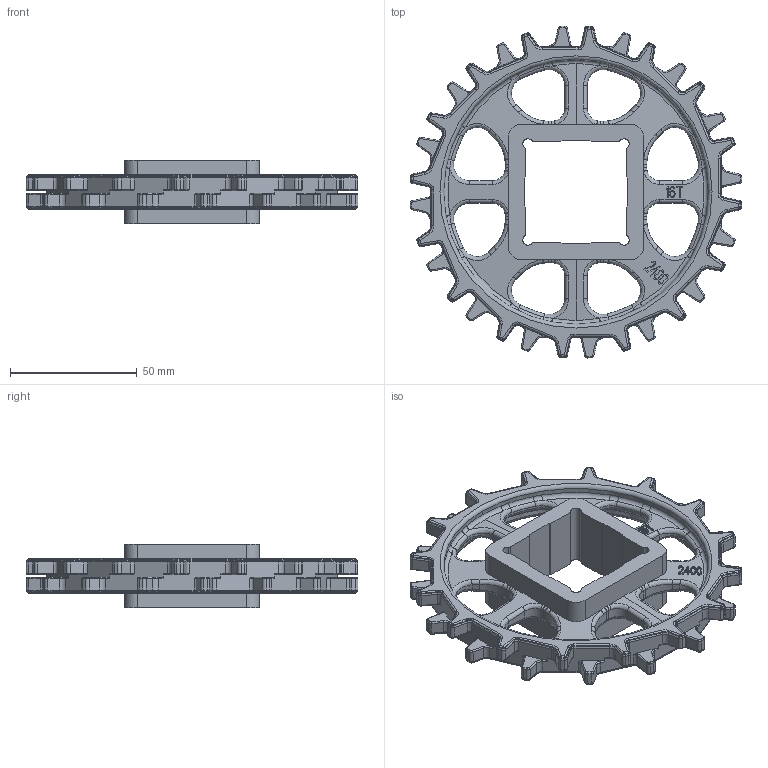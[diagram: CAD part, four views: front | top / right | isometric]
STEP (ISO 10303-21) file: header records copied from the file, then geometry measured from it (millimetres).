
FILE_DESCRIPTION(/* description */ (''),/* implementation_level */ '2;1');
FILE_NAME(/* name */ 'HS-2400B-16T-2R-S40.stp',/* time_stamp */ '2025-06-10T10:23:05+08:00',/* author */ (''),/* organization */ (''),/* preprocessor_version */ 'ST-DEVELOPER v15',/* originating_system */ 'SIEMENS PLM Software NX 8.5',/* authorisation */ '');
FILE_SCHEMA (('AP203_CONFIGURATION_CONTROLLED_3D_DESIGN_OF_MECHANICAL_PARTS_AND_ASSEMBLIES_MIM_LF { 1 0 10303 403 2 1 2}'));
Length unit declared in the file: millimetre
Products named in the file (1): Admi298016A0kctd
Bounding box: 131.07 x 131.07 x 24.89 mm (x, y, z)
Volume: 78064.1 mm3; surface area: 33895.3 mm2
Topology: 1 solids, 1 shells, 1878 faces, 4421 edges, 2478 vertices
Faces by surface type: cylinder 512, plane 469, torus 402, bspline 304, cone 191
Entity records: 73913 total; most frequent: CARTESIAN_POINT 33400, ORIENTED_EDGE 8706, DIRECTION 8305, EDGE_CURVE 4353, AXIS2_PLACEMENT_3D 3397, VERTEX_POINT 2476, EDGE_LOOP 1895, ADVANCED_FACE 1878
